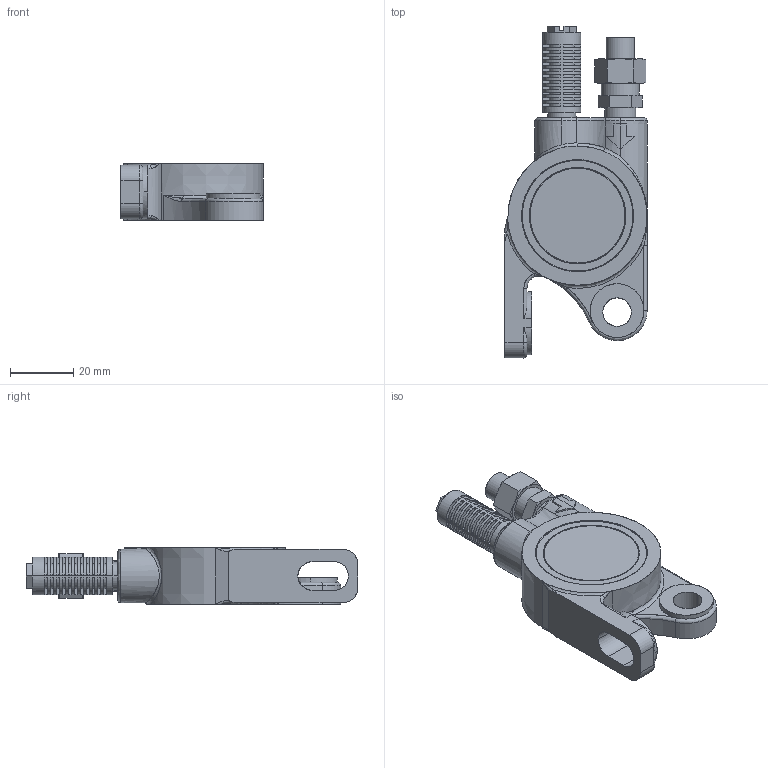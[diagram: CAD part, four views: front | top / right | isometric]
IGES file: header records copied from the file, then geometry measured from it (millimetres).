
Start section: SolidWorks IGES file using analytic representation for surfaces
Global section: file name: V:\WORK\08133\HP 寸法図\ball\BH8\test_C51000D-000 BH8_defeature.IGS,15; native system: HSolidWorks 2018; preprocessor: SolidWorks 2018; author: n-udagawa; date: 230112.101232; units: millimetre
Bounding box: 45 x 105 x 18 mm (x, y, z)
Surface area: 13620.2 mm2 (no closed solid volume)
Topology: 0 solids, 0 shells, 380 faces, 6181 edges, 7089 vertices
Faces by surface type: bspline 266, revolution 114
